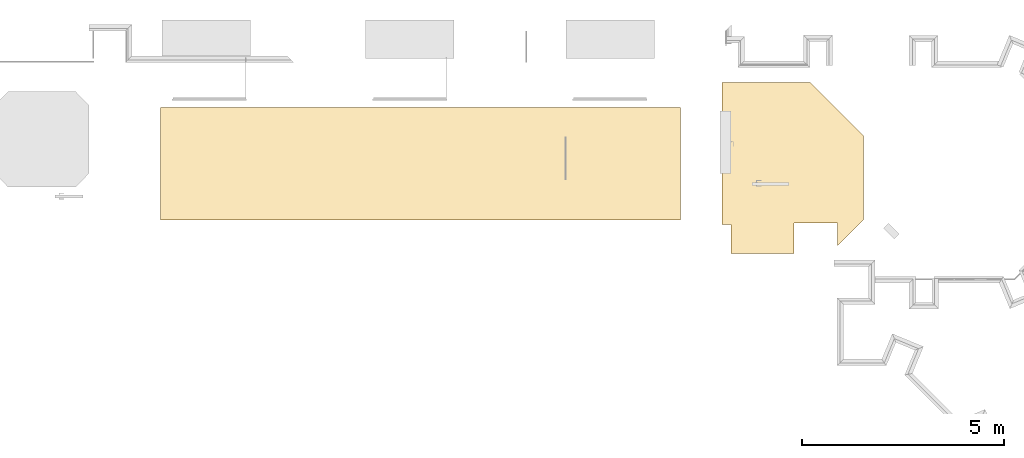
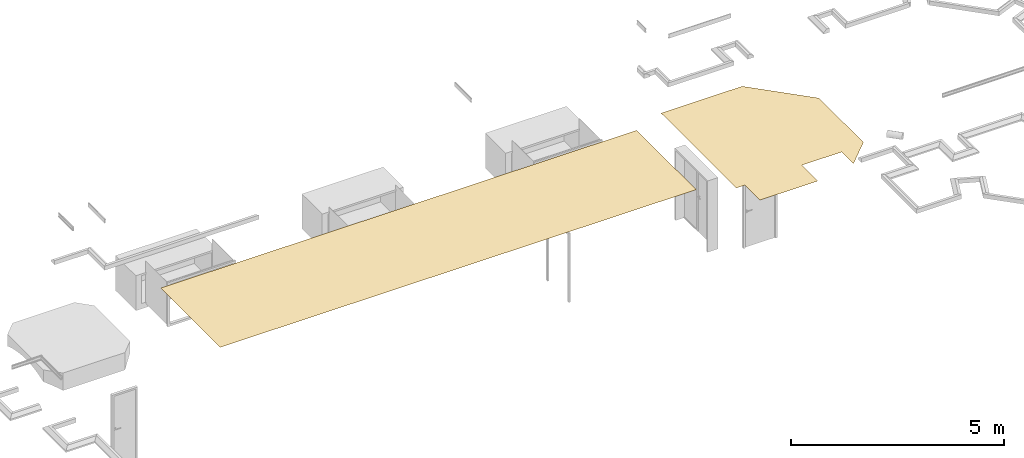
# One storey, part 1 of 9: 2 coverings.
"""IFC2X3 building model written with IfcOpenShell, lengths in metres."""

from ifc_helpers import new_model, entity, si_unit, converted_unit, derived_unit, direction, frame, origin, place, context, subcontext, project, spatial, face_set, surface_model, type_object, element, save


model = new_model("IFC2X3")

# Units and contexts
model_context = context("Model", 3, precision=1e-05, world=origin(), true_north=direction((6.12303176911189e-17, 1.0)))
plan_context = context("Plan", 3, precision=1e-05, world=origin(), true_north=direction((6.12303176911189e-17, 1.0)))
body_context = subcontext(model_context, "Body", "Model", "MODEL_VIEW")
ifc_project = project(units=[si_unit("LENGTHUNIT", "METRE"), si_unit("AREAUNIT", "SQUARE_METRE"), si_unit("VOLUMEUNIT", "CUBIC_METRE"), converted_unit("PLANEANGLEUNIT", "DEGREE", entity("IfcRatioMeasure", 0.0174532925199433), si_unit("PLANEANGLEUNIT", "RADIAN"), dimensions=[0, 0, 0, 0, 0, 0, 0]), si_unit("MASSUNIT", "GRAM", prefix="KILO"), derived_unit("MASSDENSITYUNIT", [(si_unit("MASSUNIT", "GRAM", prefix="KILO"), 1), (si_unit("LENGTHUNIT", "METRE"), -3)]), derived_unit("MOMENTOFINERTIAUNIT", [(si_unit("LENGTHUNIT", "METRE"), 4)]), si_unit("TIMEUNIT", "SECOND"), si_unit("FREQUENCYUNIT", "HERTZ"), si_unit("THERMODYNAMICTEMPERATUREUNIT", "DEGREE_CELSIUS"), derived_unit("THERMALTRANSMITTANCEUNIT", [(si_unit("MASSUNIT", "GRAM", prefix="KILO"), 1), (si_unit("THERMODYNAMICTEMPERATUREUNIT", "KELVIN"), -1), (si_unit("TIMEUNIT", "SECOND"), -3)]), derived_unit("VOLUMETRICFLOWRATEUNIT", [(si_unit("LENGTHUNIT", "METRE"), 3), (si_unit("TIMEUNIT", "SECOND"), -1)]), derived_unit("MASSFLOWRATEUNIT", [(si_unit("MASSUNIT", "GRAM", prefix="KILO"), 1), (si_unit("TIMEUNIT", "SECOND"), -1)]), derived_unit("ROTATIONALFREQUENCYUNIT", [(si_unit("TIMEUNIT", "SECOND"), -1)]), si_unit("ELECTRICCURRENTUNIT", "AMPERE"), si_unit("ELECTRICVOLTAGEUNIT", "VOLT"), si_unit("POWERUNIT", "WATT"), si_unit("FORCEUNIT", "NEWTON", prefix="KILO"), si_unit("ILLUMINANCEUNIT", "LUX"), si_unit("LUMINOUSFLUXUNIT", "LUMEN"), si_unit("LUMINOUSINTENSITYUNIT", "CANDELA"), derived_unit("USERDEFINED", [(si_unit("MASSUNIT", "GRAM", prefix="KILO"), -1), (si_unit("LENGTHUNIT", "METRE"), -2), (si_unit("TIMEUNIT", "SECOND"), 3), (si_unit("LUMINOUSFLUXUNIT", "LUMEN"), 1)]), derived_unit("SOUNDPOWERUNIT", [(si_unit("MASSUNIT", "GRAM", prefix="KILO"), 1), (si_unit("LENGTHUNIT", "METRE"), 2), (si_unit("TIMEUNIT", "SECOND"), -3)]), derived_unit("SOUNDPRESSUREUNIT", [(si_unit("MASSUNIT", "GRAM", prefix="KILO"), 1), (si_unit("LENGTHUNIT", "METRE"), -1), (si_unit("TIMEUNIT", "SECOND"), -2)]), derived_unit("LINEARVELOCITYUNIT", [(si_unit("LENGTHUNIT", "METRE"), 1), (si_unit("TIMEUNIT", "SECOND"), -1)]), si_unit("PRESSUREUNIT", "PASCAL"), derived_unit("USERDEFINED", [(si_unit("LENGTHUNIT", "METRE"), -2), (si_unit("MASSUNIT", "GRAM", prefix="KILO"), 1), (si_unit("TIMEUNIT", "SECOND"), -2)]), derived_unit("LINEARFORCEUNIT", [(si_unit("MASSUNIT", "GRAM", prefix="KILO"), 1), (si_unit("LENGTHUNIT", "METRE"), 1), (si_unit("TIMEUNIT", "SECOND"), -2), (si_unit("LENGTHUNIT", "METRE"), -1)]), derived_unit("PLANARFORCEUNIT", [(si_unit("MASSUNIT", "GRAM", prefix="KILO"), 1), (si_unit("LENGTHUNIT", "METRE"), 1), (si_unit("TIMEUNIT", "SECOND"), -2), (si_unit("LENGTHUNIT", "METRE"), -2)])], contexts=[model_context, plan_context])

# Site, building, storey
site_placement = place(None, frame((-11.0823275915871, 23.8300534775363, 0.0)))
site = spatial("IfcSite", under=ifc_project, at=site_placement, Name="Default", CompositionType="ELEMENT")
building_placement = place(site_placement, origin())
building = spatial("IfcBuilding", under=site, at=building_placement, Name="Englische Kirche", CompositionType="ELEMENT")
storey_placement = place(building_placement, frame((0.0, 0.0, -3.07499999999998)))
storey = spatial("IfcBuildingStorey", under=building, at=storey_placement, Name="Ebene -1 Basement Phase 6", CompositionType="ELEMENT", Elevation=-3.07499999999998)

# Coverings
covering_type_1 = type_object("IfcCoveringType", Name="Basisdecke:Standard", PredefinedType="CEILING")
covering_1_placement = place(storey_placement, frame((17.8730707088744, 10.5826507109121, 2.59999999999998)))
element("IfcCovering", 1, at=covering_1_placement, inside=storey, type_object=covering_type_1, Name="Basisdecke:Standard", ObjectType="Basisdecke:Standard", PredefinedType="CEILING", context=body_context, shape_type="SurfaceModel", body=[
    surface_model("IfcFaceBasedSurfaceModel", [(2.19619857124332, 4.24233027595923, 0.0), (0.0, 4.24233027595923, 0.0), (0.0, 0.710488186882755, 0.0), (0.22909297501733, 0.710488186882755, 0.0), (0.229092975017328, 0.0, 0.0), (1.79828357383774, 0.0, 0.0), (1.79828357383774, 0.747500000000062, 0.0), (2.87311606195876, 0.747500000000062, 0.0), (2.87311606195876, 0.193437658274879, 0.0), (3.51480077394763, 0.835122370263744, 0.0), (3.51480077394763, 2.92372807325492, 0.0)], [face_set([[[0, 1, 2, 3, 4, 5, 6, 7, 8, 9, 10]]])]),
])
covering_type_2 = type_object("IfcCoveringType", Name="Basisdecke:GK 10", PredefinedType="CEILING")
covering_2_placement = place(storey_placement, frame((3.95088519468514, 11.4044399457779, 2.83999999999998)))
element("IfcCovering", 2, at=covering_2_placement, inside=storey, type_object=covering_type_2, Name="Basisdecke:GK 10", ObjectType="Basisdecke:GK 10", PredefinedType="CEILING", context=body_context, shape_type="SurfaceModel", body=[
    surface_model("IfcFaceBasedSurfaceModel", [(12.9, 2.8, 0.0), (0.0, 2.8, 0.0), (0.0, 0.0, 0.0), (12.9, 0.0, 0.0)], [face_set([[[0, 1, 2, 3]]])]),
])

save(model, "model.ifc")
